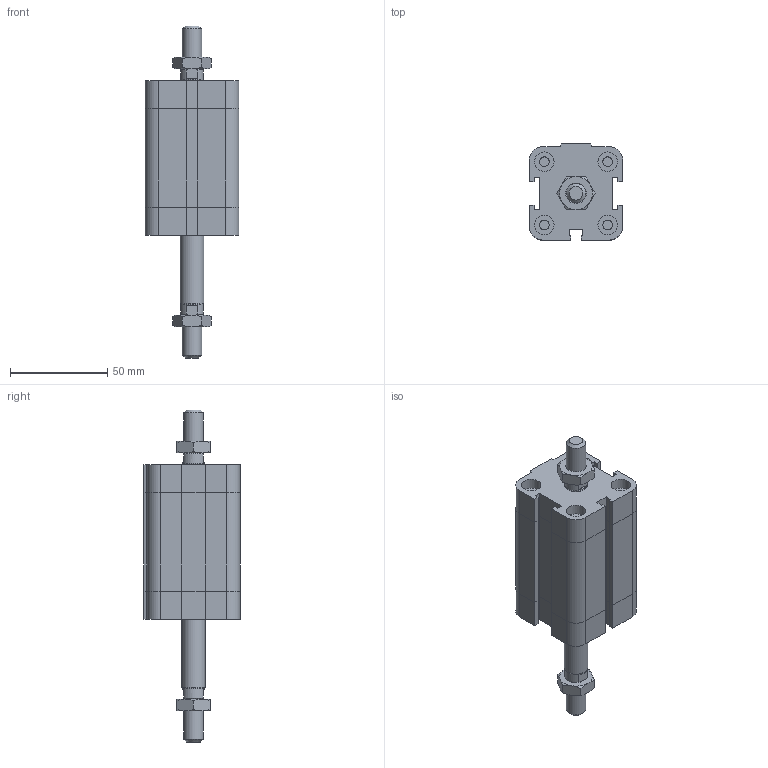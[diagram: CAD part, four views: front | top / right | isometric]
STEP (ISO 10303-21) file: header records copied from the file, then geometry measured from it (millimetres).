
FILE_DESCRIPTION((''),'2;1');
FILE_NAME('I:\Area Tecnica\Disegni\VARIE-3D\Componenti\EUROPE\15##_###_####_04_#\1561_32_0035_04_1.iam.stp','2009-04-20T14:45:06',(''),(''),'Autodesk Inventor 2009','Autodesk Inventor 2009','');
FILE_SCHEMA(('AUTOMOTIVE_DESIGN { 1 0 10303 214 1 1 1 1 }'));
Length unit declared in the file: millimetre
Products named in the file (4): 1561_32_0035_04_1; 1561_32_0035_03_1_C; 1561_32_0035_04_1_S; DBFM10
Assembly tree (4 placements, depth 2):
  1561_32_0035_04_1
    1561_32_0035_03_1_C
    1561_32_0035_04_1_S
    DBFM10  x2
Bounding box: 48 x 49.5 x 170.5 mm (x, y, z)
Volume: 171015.7 mm3; surface area: 36968.1 mm2
Topology: 4 solids, 4 shells, 222 faces, 483 edges, 289 vertices
Faces by surface type: plane 129, cone 35, bspline 33, cylinder 25
Full cylindrical faces by diameter (mm): 4.917 x4, 8.8 x1, 10 x5, 11.7 x2, 12 x1
Entity records: 5450 total; most frequent: CARTESIAN_POINT 1222, DIRECTION 802, ORIENTED_EDGE 772, EDGE_CURVE 386, AXIS2_PLACEMENT_3D 272, EDGE_LOOP 258, VECTOR 258, LINE 258
